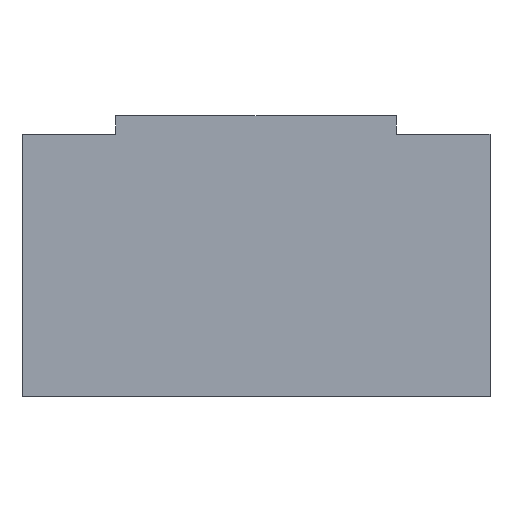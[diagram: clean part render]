
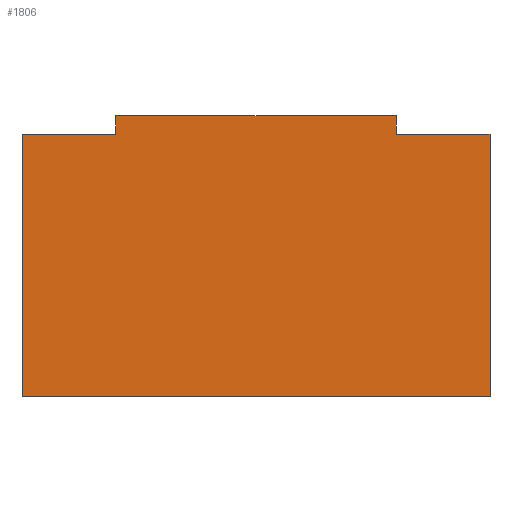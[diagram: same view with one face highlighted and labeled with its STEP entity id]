
A CAD part, left-side view. The second image highlights one B-rep face of the part: STEP entity #1806.
In plain terms, the highlighted planar face has unit normal (-1, 0, 0).
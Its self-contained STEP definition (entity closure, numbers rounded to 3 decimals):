
#4 = EDGE_CURVE ( 'NONE', #626, #926, #2112, .T. ) ;
#73 = LINE ( 'NONE', #564, #555 ) ;
#97 = VECTOR ( 'NONE', #842, 1000. ) ;
#105 = VECTOR ( 'NONE', #1801, 1000. ) ;
#166 = CARTESIAN_POINT ( 'NONE',  ( -48., -15., 28. ) ) ;
#168 = CARTESIAN_POINT ( 'NONE',  ( -48., 25., 30. ) ) ;
#180 = VECTOR ( 'NONE', #486, 1000. ) ;
#253 = CARTESIAN_POINT ( 'NONE',  ( -48., -25., 30. ) ) ;
#268 = CARTESIAN_POINT ( 'NONE',  ( -48., 15., 28. ) ) ;
#271 = DIRECTION ( 'NONE',  ( 1., 0., 0. ) ) ;
#297 = LINE ( 'NONE', #1811, #97 ) ;
#318 = EDGE_CURVE ( 'NONE', #1108, #926, #1647, .T. ) ;
#443 = EDGE_CURVE ( 'NONE', #1654, #707, #2014, .T. ) ;
#453 = VECTOR ( 'NONE', #1082, 1000. ) ;
#486 = DIRECTION ( 'NONE',  ( 0., 0., -1. ) ) ;
#496 = CARTESIAN_POINT ( 'NONE',  ( -48., -15., 30. ) ) ;
#508 = LINE ( 'NONE', #168, #105 ) ;
#538 = LINE ( 'NONE', #166, #180 ) ;
#541 = CARTESIAN_POINT ( 'NONE',  ( -48., -25., 28. ) ) ;
#550 = CARTESIAN_POINT ( 'NONE',  ( -48., 15., 30. ) ) ;
#555 = VECTOR ( 'NONE', #1041, 1000. ) ;
#564 = CARTESIAN_POINT ( 'NONE',  ( -48., -15., 28. ) ) ;
#570 = CARTESIAN_POINT ( 'NONE',  ( -48., -25., 30. ) ) ;
#598 = AXIS2_PLACEMENT_3D ( 'NONE', #253, #271, #610 ) ;
#603 = VERTEX_POINT ( 'NONE', #496 ) ;
#610 = DIRECTION ( 'NONE',  ( 0., 0., -1. ) ) ;
#626 = VERTEX_POINT ( 'NONE', #541 ) ;
#637 = DIRECTION ( 'NONE',  ( 0., 0., -1. ) ) ;
#698 = CARTESIAN_POINT ( 'NONE',  ( -48., 15., 28. ) ) ;
#707 = VERTEX_POINT ( 'NONE', #550 ) ;
#733 = ORIENTED_EDGE ( 'NONE', *, *, #1929, .F. ) ;
#747 = DIRECTION ( 'NONE',  ( 0., -1., 0. ) ) ;
#842 = DIRECTION ( 'NONE',  ( 0., -1., 0. ) ) ;
#921 = ORIENTED_EDGE ( 'NONE', *, *, #443, .F. ) ;
#926 = VERTEX_POINT ( 'NONE', #1748 ) ;
#936 = EDGE_CURVE ( 'NONE', #707, #603, #1574, .T. ) ;
#1041 = DIRECTION ( 'NONE',  ( 0., -1., 0. ) ) ;
#1057 = ORIENTED_EDGE ( 'NONE', *, *, #1311, .F. ) ;
#1082 = DIRECTION ( 'NONE',  ( 0., 0., 1. ) ) ;
#1094 = EDGE_CURVE ( 'NONE', #2046, #1108, #508, .T. ) ;
#1108 = VERTEX_POINT ( 'NONE', #1139 ) ;
#1139 = CARTESIAN_POINT ( 'NONE',  ( -48., 25., 0. ) ) ;
#1199 = FACE_OUTER_BOUND ( 'NONE', #1687, .T. ) ;
#1219 = ORIENTED_EDGE ( 'NONE', *, *, #936, .F. ) ;
#1233 = PLANE ( 'NONE',  #598 ) ;
#1271 = ORIENTED_EDGE ( 'NONE', *, *, #318, .T. ) ;
#1311 = EDGE_CURVE ( 'NONE', #1930, #626, #73, .T. ) ;
#1320 = CARTESIAN_POINT ( 'NONE',  ( -48., 25., 28. ) ) ;
#1330 = VECTOR ( 'NONE', #747, 1000. ) ;
#1574 = LINE ( 'NONE', #570, #1330 ) ;
#1583 = EDGE_CURVE ( 'NONE', #603, #1930, #538, .T. ) ;
#1616 = CARTESIAN_POINT ( 'NONE',  ( -48., -25., 30. ) ) ;
#1639 = ORIENTED_EDGE ( 'NONE', *, *, #4, .F. ) ;
#1647 = LINE ( 'NONE', #2013, #2111 ) ;
#1654 = VERTEX_POINT ( 'NONE', #698 ) ;
#1659 = ORIENTED_EDGE ( 'NONE', *, *, #1583, .F. ) ;
#1683 = ORIENTED_EDGE ( 'NONE', *, *, #1094, .T. ) ;
#1687 = EDGE_LOOP ( 'NONE', ( #1639, #1057, #1659, #1219, #921, #733, #1683, #1271 ) ) ;
#1734 = DIRECTION ( 'NONE',  ( 0., -1., 0. ) ) ;
#1748 = CARTESIAN_POINT ( 'NONE',  ( -48., -25., 0. ) ) ;
#1759 = VECTOR ( 'NONE', #637, 1000. ) ;
#1801 = DIRECTION ( 'NONE',  ( 0., 0., -1. ) ) ;
#1806 = ADVANCED_FACE ( 'NONE', ( #1199 ), #1233, .F. ) ;
#1811 = CARTESIAN_POINT ( 'NONE',  ( -48., 40.483, 28. ) ) ;
#1929 = EDGE_CURVE ( 'NONE', #2046, #1654, #297, .T. ) ;
#1930 = VERTEX_POINT ( 'NONE', #1964 ) ;
#1964 = CARTESIAN_POINT ( 'NONE',  ( -48., -15., 28. ) ) ;
#2013 = CARTESIAN_POINT ( 'NONE',  ( -48., -25., 0. ) ) ;
#2014 = LINE ( 'NONE', #268, #453 ) ;
#2046 = VERTEX_POINT ( 'NONE', #1320 ) ;
#2111 = VECTOR ( 'NONE', #1734, 1000. ) ;
#2112 = LINE ( 'NONE', #1616, #1759 ) ;
